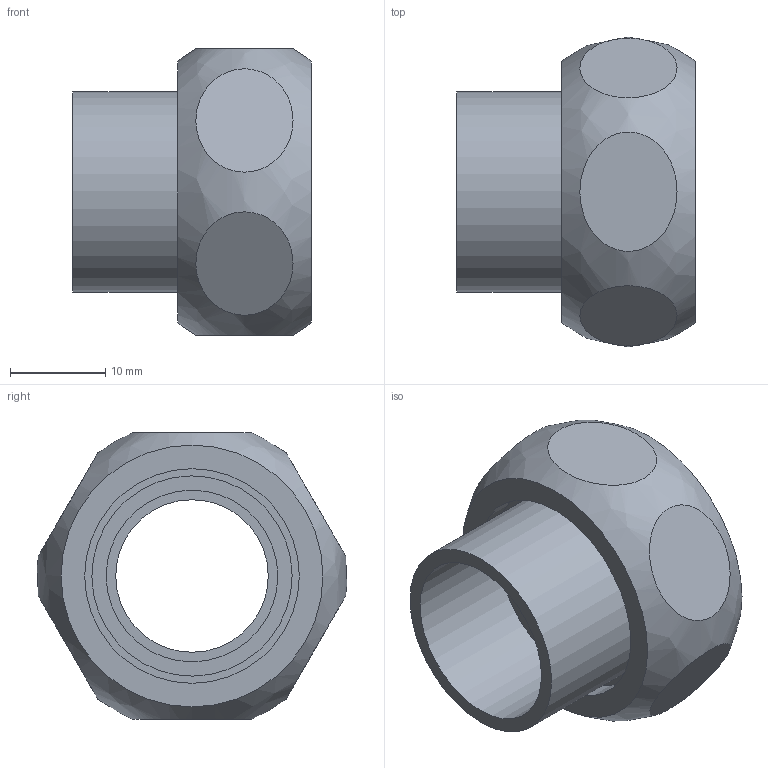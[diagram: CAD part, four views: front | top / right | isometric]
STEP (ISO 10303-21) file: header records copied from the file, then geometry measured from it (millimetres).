
FILE_DESCRIPTION(/* description */ (''),/* implementation_level */ '2;1');
FILE_NAME(/* name */ '\\LG50001\SANHA_Legnica\Engineering\Public\RYSUNKI\SANHA POLSKA\4359g\inventor\14359g_18-34(1).stp',/* time_stamp */ '2017-03-16T12:45:57+01:00',/* author */ ('gomulka'),/* organization */ (''),/* preprocessor_version */ 'ST-DEVELOPER v15.6',/* originating_system */ 'Autodesk Inventor 2015',/* authorisation */ '');
FILE_SCHEMA (('AUTOMOTIVE_DESIGN { 1 0 10303 214 3 1 1 }'));
Length unit declared in the file: millimetre
Products named in the file (4): 14374_34(2); 1DCU34; 14372_18-34(1); 14359g_18-34(1)
Assembly tree (3 placements, depth 2):
  14359g_18-34(1)
    14374_34(2)
    1DCU34
    14372_18-34(1)
Bounding box: 25 x 32.45 x 30 mm (x, y, z)
Volume: 6458 mm3; surface area: 6088.2 mm2
Topology: 3 solids, 3 shells, 25 faces, 39 edges, 28 vertices
Faces by surface type: plane 15, cylinder 8, cone 1, bspline 1
Full cylindrical faces by diameter (mm): 16 x1, 17 x1, 18 x1, 21 x1, 22.5 x1, 23.5 x1, 24 x1, 24.117 x1
Entity records: 998 total; most frequent: CARTESIAN_POINT 463, DIRECTION 104, ORIENTED_EDGE 60, AXIS2_PLACEMENT_3D 52, EDGE_LOOP 48, EDGE_CURVE 30, VERTEX_POINT 28, FACE_OUTER_BOUND 25
